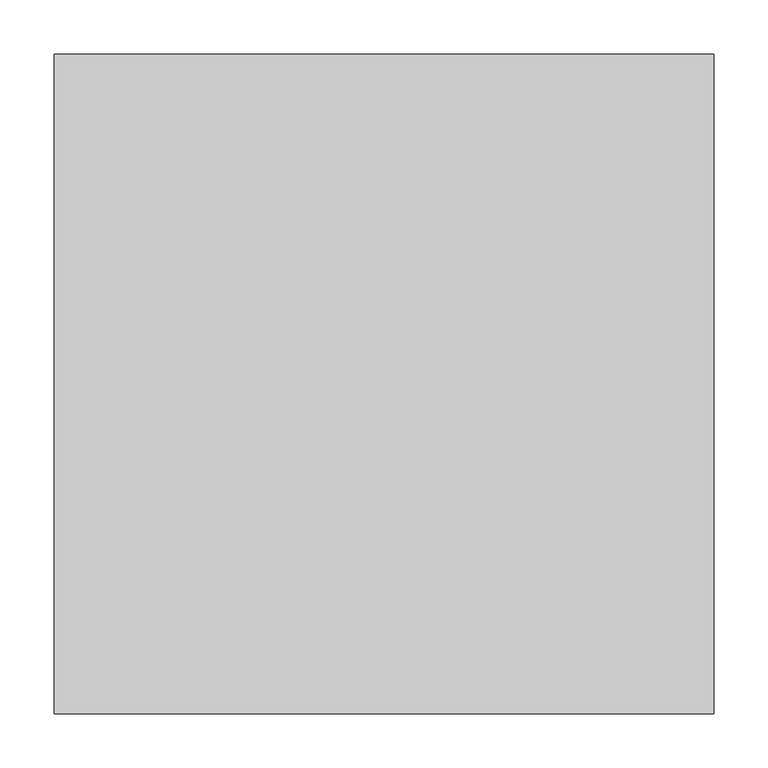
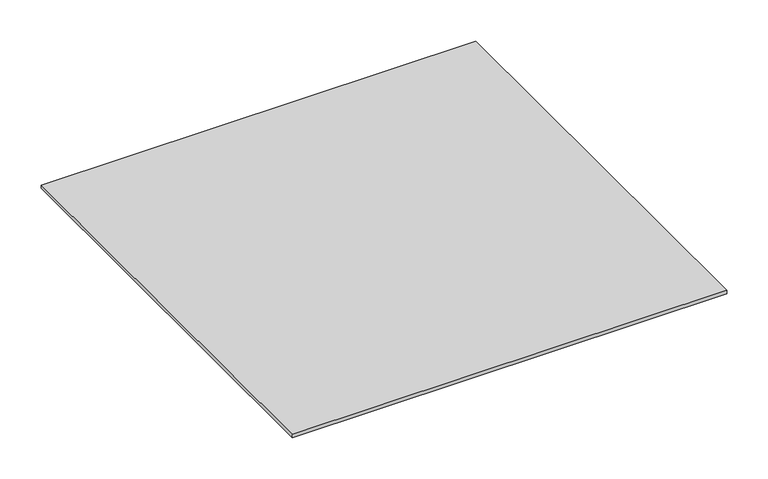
"""IFC4 building model written with IfcOpenShell, lengths in millimetres: proxy geometry, Ceiling_Tile-Qwel-Noise_Reduction_Booster : Noise Reduction Booster."""

from ifc_helpers import new_model, si_unit, origin, origin_with_axes, place, context, project, spatial, polyline, outline, extrude, source, transform, mapped, element, save


def specialty_equipment_1fa0dee3(model_context):
    return source(origin(), model_context, "Body", "SweptSolid", [
        extrude(outline(polyline([(304.8, -304.8), (-304.8, -304.8), (-304.8, 304.8), (304.8, 304.8), (304.8, -304.8)])), origin_with_axes(), (0.0, 0.0, 1.0), 4.7625),
    ])


if __name__ == "__main__":
    model = new_model("IFC4")
    model_context = context("Model", 3, world=origin())
    ifc_project = project(units=[si_unit("LENGTHUNIT", "METRE", prefix="MILLI")], contexts=[model_context])
    site = spatial("IfcSite", under=ifc_project)
    building = spatial("IfcBuilding", under=site)
    placement = place(None, origin())
    specialty_equipment_shape = specialty_equipment_1fa0dee3(model_context)
    element("IfcBuildingElementProxy", 1, Name="Ceiling_Tile-Qwel-Noise_Reduction_Booster : Noise Reduction Booster", ObjectType="Ceiling_Tile-Qwel-Noise_Reduction_Booster : Noise Reduction Booster", at=placement, inside=building, context=model_context, shape_type="MappedRepresentation", body=[
        mapped(specialty_equipment_shape, transform((0.0, 0.0, 0.0), x_axis=(1.0, 0.0, 0.0), y_axis=(0.0, 1.0, 0.0), z_axis=(0.0, 0.0, 1.0))),
    ])
    save(model, "model.ifc")
